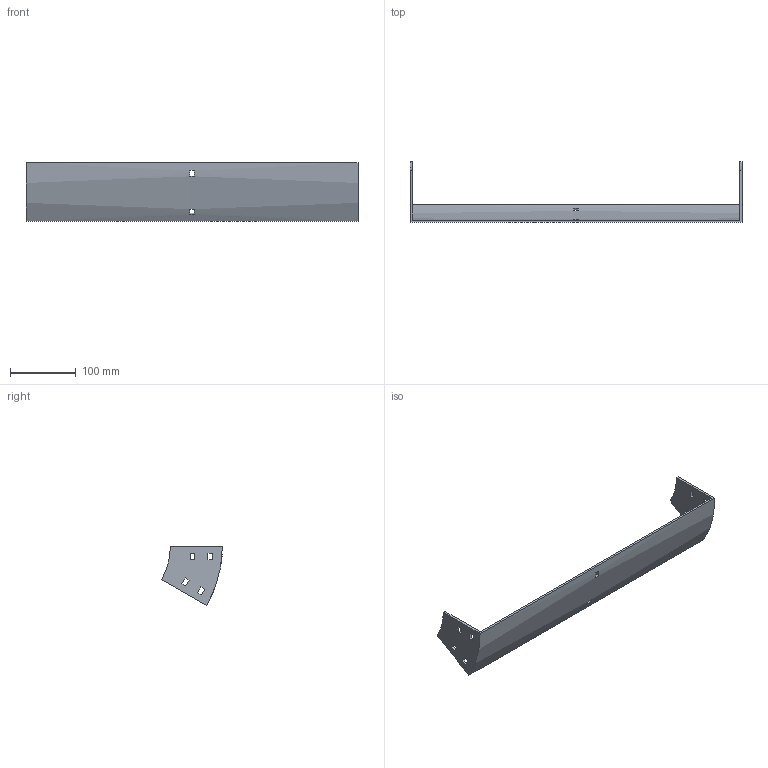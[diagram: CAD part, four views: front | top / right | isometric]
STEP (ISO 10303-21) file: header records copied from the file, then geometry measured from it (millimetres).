
FILE_DESCRIPTION (( 'STEP AP214' ), '1' );
FILE_NAME ('32B1C500.step', '2025-02-21T09:44:55', ( '' ), ( '' ), 'SwSTEP 2.0', 'SolidWorks 2023', '' );
FILE_SCHEMA (( 'AUTOMOTIVE_DESIGN' ));
Length unit declared in the file: millimetre
Products named in the file (1): 32B1C500
Bounding box: 504 x 92.4 x 89.5 mm (x, y, z)
Volume: 199460.2 mm3; surface area: 120105.2 mm2
Topology: 1 solids, 1 shells, 50 faces, 144 edges, 96 vertices
Faces by surface type: plane 46, cylinder 4
Entity records: 1687 total; most frequent: CARTESIAN_POINT 291, ORIENTED_EDGE 288, DIRECTION 262, EDGE_CURVE 144, LINE 128, VECTOR 128, VERTEX_POINT 96, EDGE_LOOP 70
